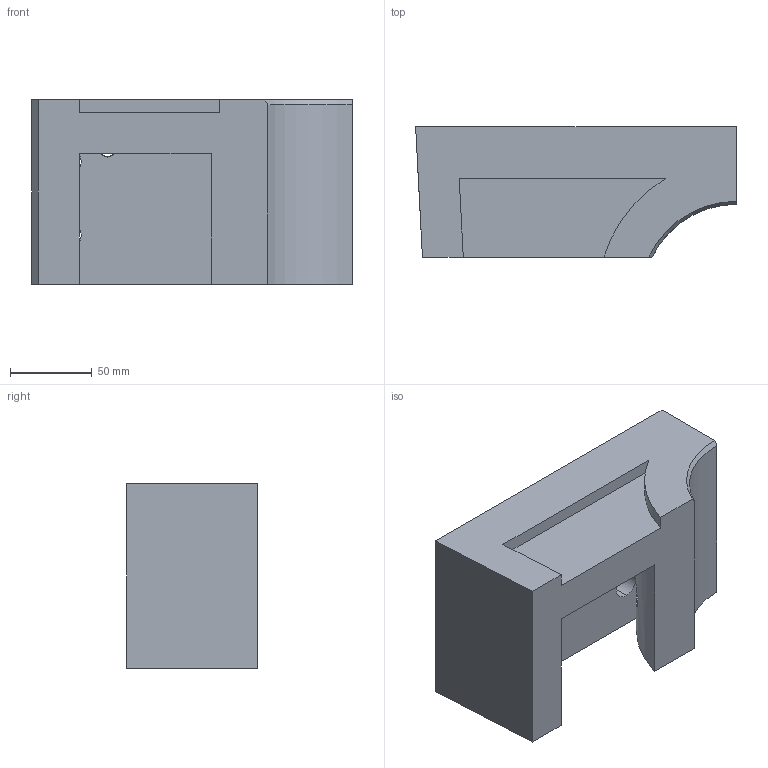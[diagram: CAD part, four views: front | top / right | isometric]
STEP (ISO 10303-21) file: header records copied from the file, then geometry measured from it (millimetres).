
FILE_DESCRIPTION (( 'STEP AP214' ), '1' );
FILE_NAME ('example_split-periodical-surfaces.STEP', '2023-01-29T10:45:16', ( '' ), ( '' ), 'SwSTEP 2.0', 'SolidWorks 2021', '' );
FILE_SCHEMA (( 'AUTOMOTIVE_DESIGN' ));
Length unit declared in the file: millimetre
Products named in the file (1): example_split-periodical-surfaces
Bounding box: 196.58 x 80 x 113 mm (x, y, z)
Volume: 1169096.4 mm3; surface area: 110380.1 mm2
Topology: 1 solids, 1 shells, 39 faces, 129 edges, 79 vertices
Faces by surface type: cylinder 15, plane 13, cone 11
Entity records: 1587 total; most frequent: CARTESIAN_POINT 459, ORIENTED_EDGE 238, DIRECTION 224, EDGE_CURVE 119, AXIS2_PLACEMENT_3D 80, VERTEX_POINT 79, LINE 64, VECTOR 64
